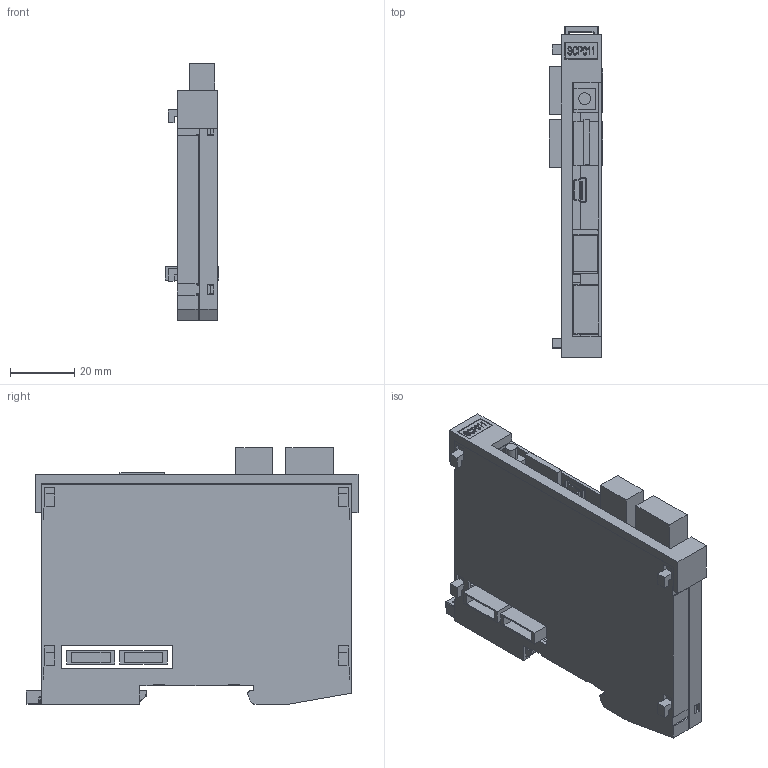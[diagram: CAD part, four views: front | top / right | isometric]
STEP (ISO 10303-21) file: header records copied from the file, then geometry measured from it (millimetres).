
FILE_DESCRIPTION (( 'STEP AP214' ), '1' );
FILE_NAME ('SCP011.STEP', '2015-08-18T12:00:04', ( 'SIGMATEK GmbH & Co KG' ), ( 'SIGMATEK GmbH & Co KG' ), 'SwSTEP 2.0', 'SolidWorks 2013', '' );
FILE_SCHEMA (( 'AUTOMOTIVE_DESIGN' ));
Length unit declared in the file: millimetre
Products named in the file (16): S-Dias Schale links_f Suport 2 Stecker; 4110251342_MF 10-5 MC CABUR_1854510000; SCP011; LP_SCP011; Dummy_7297771206_TA3_1W2_V_T_R; Dummy____________fmc_1.5 3pol 1952296; Dummy_4110262104 4pol.Federkraftstecker f.2reih 1952283; Dummy_4110251244 3pol.Mini-Combic.Steckergrundg. RM 3,5 1844223; Dummy_4110251205 4pol.Minicombicon-Grundgehäuse RM3,5 1937512; Dummy_4080225345 Erni Buchse; Dummy_4080225346 Erni Stift; Dummy_4080225147 & 751771034 Micro SD Connector incl. SD-Card; Dummy_4080225241 MINI USB; S-Dias Rasthaken 20130313; Schieber_f Suport; S-Dias Schale rechts_f Suport 2 Stecker
Assembly tree (17 placements, depth 3):
  SCP011
    4110251342_MF 10-5 MC CABUR_1854510000
    S-Dias Schale links_f Suport 2 Stecker
    S-Dias Schale rechts_f Suport 2 Stecker
    Schieber_f Suport
    S-Dias Rasthaken 20130313
    LP_SCP011
      Dummy_4080225241 MINI USB
      Dummy_4080225147 & 751771034 Micro SD Connector incl. SD-Card
      Dummy_4080225346 Erni Stift  x2
      Dummy_4080225345 Erni Buchse  x2
      Dummy_4110251205 4pol.Minicombicon-Grundgehäuse RM3,5 1937512
      Dummy_4110251244 3pol.Mini-Combic.Steckergrundg. RM 3,5 1844223
      Dummy_4110262104 4pol.Federkraftstecker f.2reih 1952283
      Dummy____________fmc_1.5 3pol 1952296
      Dummy_7297771206_TA3_1W2_V_T_R
Bounding box: 16.8 x 103.61 x 80.15 mm (x, y, z)
Volume: 26744.5 mm3; surface area: 43669.9 mm2
Topology: 16 solids, 16 shells, 940 faces, 2673 edges, 1762 vertices
Faces by surface type: plane 623, cylinder 158, bspline 95, cone 28, torus 19, sphere 17
Entity records: 37222 total; most frequent: CARTESIAN_POINT 10527, ORIENTED_EDGE 5200, DIRECTION 4053, EDGE_CURVE 2600, LINE 1807, VECTOR 1807, VERTEX_POINT 1722, AXIS2_PLACEMENT_3D 1123
